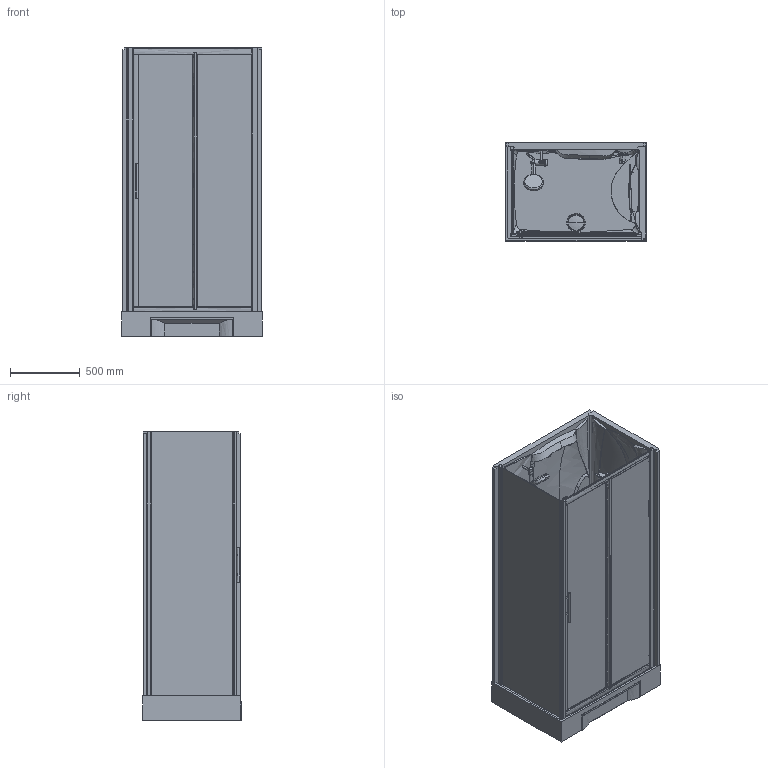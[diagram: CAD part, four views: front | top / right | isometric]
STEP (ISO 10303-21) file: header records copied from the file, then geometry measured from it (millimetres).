
FILE_DESCRIPTION(('STEP AP203'),'2;1');
FILE_NAME('NNH 2P 100 D M 19.stp','2015-09-08T09:01:37',(''),(''),'2014.1.117','THINKDESIGN','');
FILE_SCHEMA(('CONFIG_CONTROL_DESIGN'));
Length unit declared in the file: millimetre
Products named in the file (1): top
Bounding box: 1004.05 x 707.53 x 2063.06 mm (x, y, z)
Volume: 226698560.1 mm3; surface area: 17471239.1 mm2
Topology: 34 solids, 34 shells, 679 faces, 1728 edges, 1133 vertices
Faces by surface type: bspline 321, plane 274, cylinder 84
Entity records: 66981 total; most frequent: CARTESIAN_POINT 53049, ORIENTED_EDGE 3280, DIRECTION 1978, EDGE_CURVE 1640, VERTEX_POINT 1060, VECTOR 784, LINE 784, EDGE_LOOP 682
